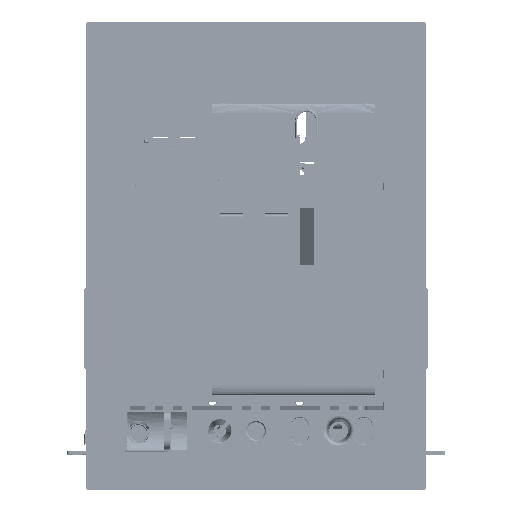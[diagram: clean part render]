
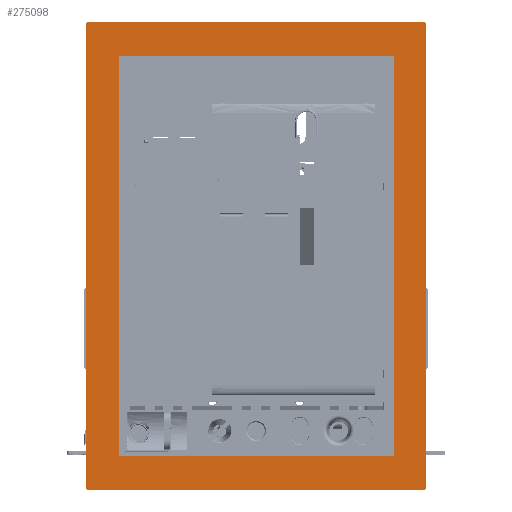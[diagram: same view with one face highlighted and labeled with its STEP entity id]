
A CAD part, top view. The second image highlights one B-rep face of the part: STEP entity #275098.
In plain terms, the highlighted planar face has unit normal (0, 0, 1).
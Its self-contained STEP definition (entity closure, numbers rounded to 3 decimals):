
#2093 = VERTEX_POINT ( 'NONE', #85813 ) ;
#3609 = ORIENTED_EDGE ( 'NONE', *, *, #140745, .F. ) ;
#8375 = CARTESIAN_POINT ( 'NONE',  ( -9.978, -371.772, 118.173 ) ) ;
#15420 = LINE ( 'NONE', #215325, #71670 ) ;
#20102 = VERTEX_POINT ( 'NONE', #69618 ) ;
#23738 = VERTEX_POINT ( 'NONE', #187050 ) ;
#24636 = EDGE_CURVE ( 'NONE', #2093, #225066, #137773, .T. ) ;
#27147 = VECTOR ( 'NONE', #282023, 1000. ) ;
#29840 = DIRECTION ( 'NONE',  ( -1., 0., 0. ) ) ;
#33181 = EDGE_CURVE ( 'NONE', #134831, #57878, #138670, .T. ) ;
#35913 = CIRCLE ( 'NONE', #239478, 2. ) ;
#47582 = VECTOR ( 'NONE', #64747, 1000. ) ;
#48772 = CARTESIAN_POINT ( 'NONE',  ( 234.022, -344.772, 118.173 ) ) ;
#57878 = VERTEX_POINT ( 'NONE', #79379 ) ;
#59047 = EDGE_CURVE ( 'NONE', #79620, #136063, #203833, .T. ) ;
#59635 = VERTEX_POINT ( 'NONE', #219189 ) ;
#60765 = VECTOR ( 'NONE', #236377, 1000. ) ;
#62748 = DIRECTION ( 'NONE',  ( 0., -1., 0. ) ) ;
#63235 = VECTOR ( 'NONE', #88381, 1000. ) ;
#63998 = AXIS2_PLACEMENT_3D ( 'NONE', #145242, #80057, #233686 ) ;
#64747 = DIRECTION ( 'NONE',  ( -1., 0., 0. ) ) ;
#66164 = LINE ( 'NONE', #267605, #47582 ) ;
#69618 = CARTESIAN_POINT ( 'NONE',  ( -11.978, 0.228, 118.173 ) ) ;
#71670 = VECTOR ( 'NONE', #103743, 1000. ) ;
#76148 = CARTESIAN_POINT ( 'NONE',  ( 234.022, -24.772, 118.173 ) ) ;
#76569 = DIRECTION ( 'NONE',  ( 0., 0., 1. ) ) ;
#79028 = EDGE_CURVE ( 'NONE', #59635, #86983, #15420, .T. ) ;
#79162 = VECTOR ( 'NONE', #62748, 1000. ) ;
#79379 = CARTESIAN_POINT ( 'NONE',  ( 260.022, -369.772, 118.173 ) ) ;
#79620 = VERTEX_POINT ( 'NONE', #134818 ) ;
#80057 = DIRECTION ( 'NONE',  ( 0., 0., 1. ) ) ;
#81316 = CARTESIAN_POINT ( 'NONE',  ( 14.022, -344.772, 118.173 ) ) ;
#84731 = CARTESIAN_POINT ( 'NONE',  ( 258.022, 0.228, 118.173 ) ) ;
#85813 = CARTESIAN_POINT ( 'NONE',  ( -11.978, -369.772, 118.173 ) ) ;
#86983 = VERTEX_POINT ( 'NONE', #279235 ) ;
#88381 = DIRECTION ( 'NONE',  ( 0., 1., 0. ) ) ;
#93448 = DIRECTION ( 'NONE',  ( 0., 1., 0. ) ) ;
#94636 = ORIENTED_EDGE ( 'NONE', *, *, #125132, .F. ) ;
#99213 = CARTESIAN_POINT ( 'NONE',  ( 234.022, -24.772, 118.173 ) ) ;
#103743 = DIRECTION ( 'NONE',  ( 0., -1., 0. ) ) ;
#103877 = EDGE_CURVE ( 'NONE', #86983, #79620, #279857, .T. ) ;
#106615 = CARTESIAN_POINT ( 'NONE',  ( -9.978, 0.228, 118.173 ) ) ;
#109304 = VECTOR ( 'NONE', #202385, 1000. ) ;
#109475 = CARTESIAN_POINT ( 'NONE',  ( 258.022, -371.772, 118.173 ) ) ;
#118320 = ORIENTED_EDGE ( 'NONE', *, *, #24636, .T. ) ;
#119393 = ORIENTED_EDGE ( 'NONE', *, *, #157278, .F. ) ;
#122888 = DIRECTION ( 'NONE',  ( -1., 0., 0. ) ) ;
#123523 = FACE_BOUND ( 'NONE', #261424, .T. ) ;
#125132 = EDGE_CURVE ( 'NONE', #23738, #281216, #209999, .T. ) ;
#129647 = DIRECTION ( 'NONE',  ( 1., 0., 0. ) ) ;
#134818 = CARTESIAN_POINT ( 'NONE',  ( 234.022, -344.772, 118.173 ) ) ;
#134831 = VERTEX_POINT ( 'NONE', #109475 ) ;
#134833 = EDGE_CURVE ( 'NONE', #23738, #20102, #203576, .T. ) ;
#136063 = VERTEX_POINT ( 'NONE', #99213 ) ;
#137063 = LINE ( 'NONE', #76148, #151337 ) ;
#137773 = CIRCLE ( 'NONE', #183926, 2. ) ;
#138670 = CIRCLE ( 'NONE', #240490, 2. ) ;
#140745 = EDGE_CURVE ( 'NONE', #134831, #225066, #66164, .T. ) ;
#145242 = CARTESIAN_POINT ( 'NONE',  ( 124.022, -184.772, 118.173 ) ) ;
#151337 = VECTOR ( 'NONE', #29840, 1000. ) ;
#152978 = EDGE_CURVE ( 'NONE', #2093, #20102, #178191, .T. ) ;
#157278 = EDGE_CURVE ( 'NONE', #136063, #59635, #137063, .T. ) ;
#175781 = CARTESIAN_POINT ( 'NONE',  ( 260.022, 0.228, 118.173 ) ) ;
#177943 = EDGE_CURVE ( 'NONE', #207780, #281216, #35913, .T. ) ;
#178191 = LINE ( 'NONE', #246296, #63235 ) ;
#180792 = ORIENTED_EDGE ( 'NONE', *, *, #59047, .F. ) ;
#183926 = AXIS2_PLACEMENT_3D ( 'NONE', #254799, #76569, #122888 ) ;
#184989 = CARTESIAN_POINT ( 'NONE',  ( 260.022, 0.228, 118.173 ) ) ;
#187050 = CARTESIAN_POINT ( 'NONE',  ( -9.978, 2.228, 118.173 ) ) ;
#191621 = CARTESIAN_POINT ( 'NONE',  ( 258.022, 2.228, 118.173 ) ) ;
#199702 = ORIENTED_EDGE ( 'NONE', *, *, #177943, .T. ) ;
#202385 = DIRECTION ( 'NONE',  ( 0., 1., 0. ) ) ;
#203576 = CIRCLE ( 'NONE', #236061, 2. ) ;
#203833 = LINE ( 'NONE', #48772, #109304 ) ;
#207780 = VERTEX_POINT ( 'NONE', #184989 ) ;
#209999 = LINE ( 'NONE', #254943, #27147 ) ;
#213435 = EDGE_CURVE ( 'NONE', #207780, #57878, #258457, .T. ) ;
#215325 = CARTESIAN_POINT ( 'NONE',  ( 14.022, -24.772, 118.173 ) ) ;
#219189 = CARTESIAN_POINT ( 'NONE',  ( 14.022, -24.772, 118.173 ) ) ;
#222484 = DIRECTION ( 'NONE',  ( 0., 0., 1. ) ) ;
#224331 = EDGE_LOOP ( 'NONE', ( #277450, #118320, #3609, #261500, #259306, #199702, #94636, #259944 ) ) ;
#225066 = VERTEX_POINT ( 'NONE', #8375 ) ;
#228997 = CARTESIAN_POINT ( 'NONE',  ( 258.022, -369.772, 118.173 ) ) ;
#231846 = DIRECTION ( 'NONE',  ( 0., -1., 0. ) ) ;
#233686 = DIRECTION ( 'NONE',  ( -1., 0., 0. ) ) ;
#236061 = AXIS2_PLACEMENT_3D ( 'NONE', #106615, #222484, #93448 ) ;
#236377 = DIRECTION ( 'NONE',  ( 1., 0., 0. ) ) ;
#239478 = AXIS2_PLACEMENT_3D ( 'NONE', #84731, #261560, #129647 ) ;
#240490 = AXIS2_PLACEMENT_3D ( 'NONE', #228997, #249318, #231846 ) ;
#246296 = CARTESIAN_POINT ( 'NONE',  ( -11.978, -369.772, 118.173 ) ) ;
#249318 = DIRECTION ( 'NONE',  ( 0., 0., 1. ) ) ;
#254799 = CARTESIAN_POINT ( 'NONE',  ( -9.978, -369.772, 118.173 ) ) ;
#254943 = CARTESIAN_POINT ( 'NONE',  ( -9.978, 2.228, 118.173 ) ) ;
#255428 = PLANE ( 'NONE',  #63998 ) ;
#257975 = ORIENTED_EDGE ( 'NONE', *, *, #79028, .F. ) ;
#258457 = LINE ( 'NONE', #175781, #79162 ) ;
#259306 = ORIENTED_EDGE ( 'NONE', *, *, #213435, .F. ) ;
#259944 = ORIENTED_EDGE ( 'NONE', *, *, #134833, .T. ) ;
#261424 = EDGE_LOOP ( 'NONE', ( #119393, #180792, #261564, #257975 ) ) ;
#261500 = ORIENTED_EDGE ( 'NONE', *, *, #33181, .T. ) ;
#261560 = DIRECTION ( 'NONE',  ( 0., 0., 1. ) ) ;
#261564 = ORIENTED_EDGE ( 'NONE', *, *, #103877, .F. ) ;
#267605 = CARTESIAN_POINT ( 'NONE',  ( 258.022, -371.772, 118.173 ) ) ;
#275098 = ADVANCED_FACE ( 'NONE', ( #123523, #278578 ), #255428, .T. ) ;
#277450 = ORIENTED_EDGE ( 'NONE', *, *, #152978, .F. ) ;
#278578 = FACE_OUTER_BOUND ( 'NONE', #224331, .T. ) ;
#279235 = CARTESIAN_POINT ( 'NONE',  ( 14.022, -344.772, 118.173 ) ) ;
#279857 = LINE ( 'NONE', #81316, #60765 ) ;
#281216 = VERTEX_POINT ( 'NONE', #191621 ) ;
#282023 = DIRECTION ( 'NONE',  ( 1., 0., 0. ) ) ;
